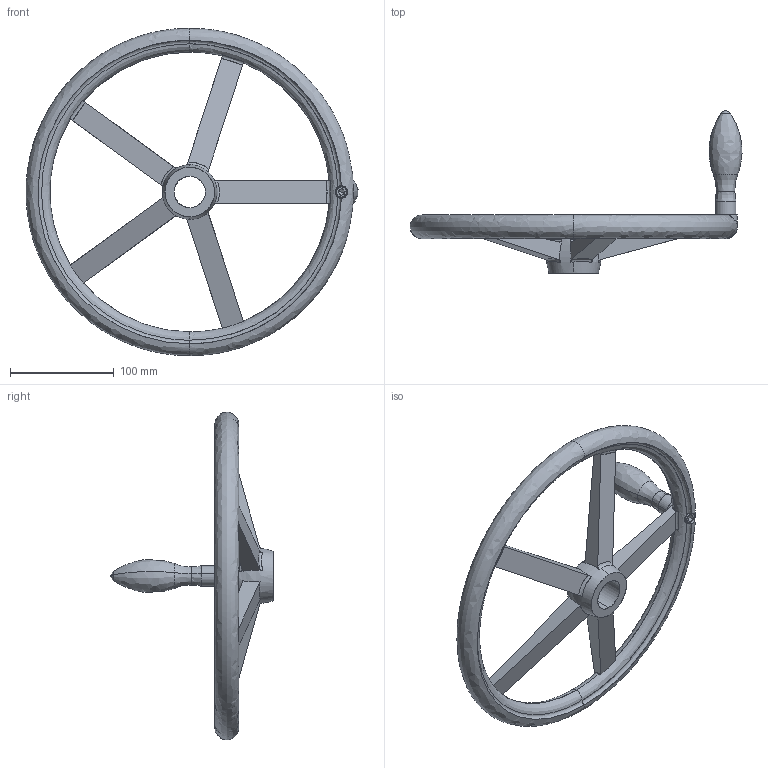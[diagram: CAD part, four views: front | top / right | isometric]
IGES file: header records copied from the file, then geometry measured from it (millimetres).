
Start section: SolidWorks IGES file using analytic representation for surfaces
Global section: file name: C:\Users\IanO\Desktop\Temp File\Process pending\77120_v2\77120_v2_20171108_IGES\77120.W0446.igs; native system: SolidWorks 2017; preprocessor: SolidWorks 2017; author: IanO; date: 171108.084801; units: millimetre
Bounding box: 319.33 x 156 x 315 mm (x, y, z)
Surface area: 122602.3 mm2 (no closed solid volume)
Topology: 0 solids, 0 shells, 135 faces, 1893 edges, 1886 vertices
Faces by surface type: bspline 73, revolution 62
